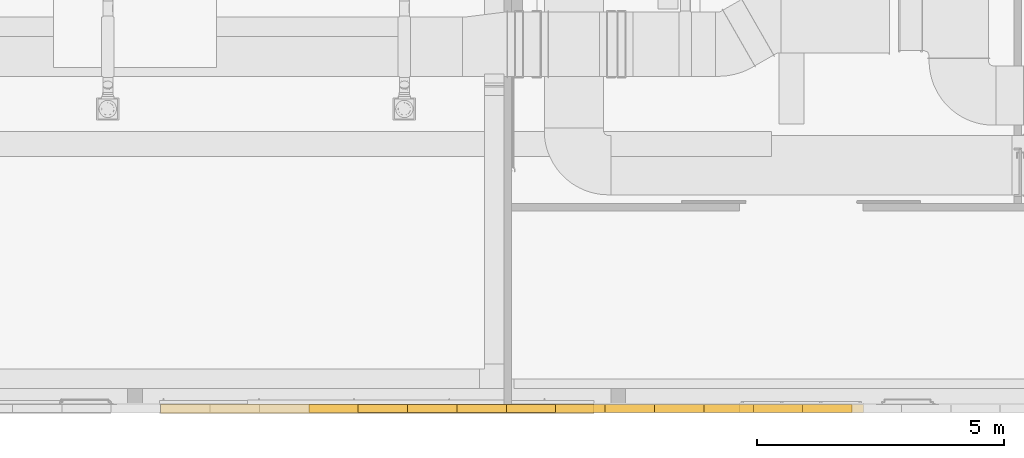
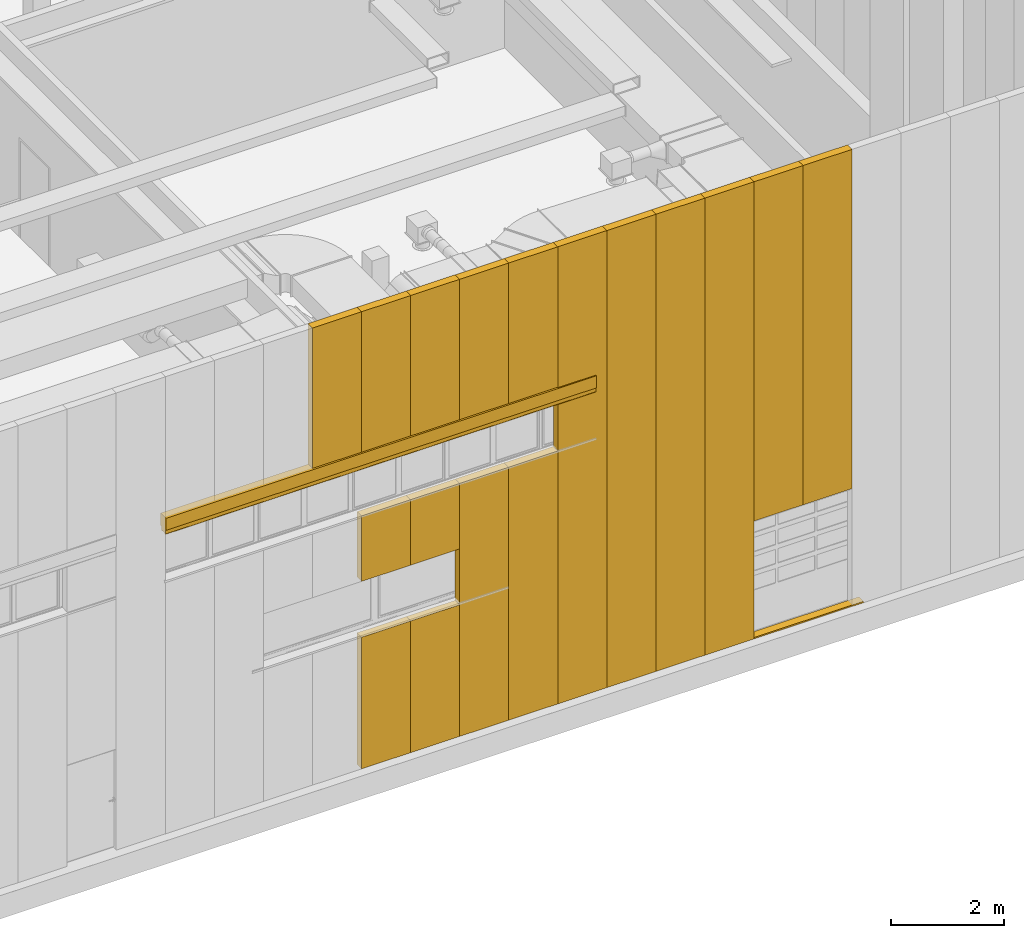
# One storey, part 225 of 302: 18 curtain walls, 1 window, 1 opening, 1 element without a shape of its own.
"""IFC2X3 building model written with IfcOpenShell, lengths in metres."""

from ifc_helpers import new_model, entity, si_unit, converted_unit, derived_unit, direction, frame, frame_2d, origin, origin_2d_with_axis, place, context, subcontext, project, spatial, polyline, circle_curve, parameter, trimmed, segment, composite_curve, rectangle, outline, extrude, source, transform, mapped, material, material_list, layer, layer_set, layer_usage, type_object, type_shapes, element, aggregate, save


model = new_model("IFC2X3")

# Units and contexts
model_context = context("Model", 3, precision=1e-05, world=origin(), true_north=direction((6.12303176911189e-17, 1.0)))
body_context = subcontext(model_context, "Body", "Model", "MODEL_VIEW")
ifc_project = project(units=[si_unit("LENGTHUNIT", "METRE"), si_unit("AREAUNIT", "SQUARE_METRE"), si_unit("VOLUMEUNIT", "CUBIC_METRE"), converted_unit("PLANEANGLEUNIT", "DEGREE", entity("IfcRatioMeasure", 0.0174532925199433), si_unit("PLANEANGLEUNIT", "RADIAN"), dimensions=[0, 0, 0, 0, 0, 0, 0]), si_unit("MASSUNIT", "GRAM", prefix="KILO"), derived_unit("MASSDENSITYUNIT", [(si_unit("MASSUNIT", "GRAM", prefix="KILO"), 1), (si_unit("LENGTHUNIT", "METRE"), -3)]), derived_unit("MOMENTOFINERTIAUNIT", [(si_unit("LENGTHUNIT", "METRE"), 4)]), si_unit("TIMEUNIT", "SECOND"), si_unit("FREQUENCYUNIT", "HERTZ"), si_unit("THERMODYNAMICTEMPERATUREUNIT", "DEGREE_CELSIUS"), derived_unit("THERMALTRANSMITTANCEUNIT", [(si_unit("MASSUNIT", "GRAM", prefix="KILO"), 1), (si_unit("THERMODYNAMICTEMPERATUREUNIT", "KELVIN"), -1), (si_unit("TIMEUNIT", "SECOND"), -3)]), derived_unit("VOLUMETRICFLOWRATEUNIT", [(si_unit("LENGTHUNIT", "METRE"), 3), (si_unit("TIMEUNIT", "SECOND"), -1)]), si_unit("ELECTRICCURRENTUNIT", "AMPERE"), si_unit("ELECTRICVOLTAGEUNIT", "VOLT"), si_unit("POWERUNIT", "WATT"), si_unit("FORCEUNIT", "NEWTON", prefix="KILO"), si_unit("ILLUMINANCEUNIT", "LUX"), si_unit("LUMINOUSFLUXUNIT", "LUMEN"), si_unit("LUMINOUSINTENSITYUNIT", "CANDELA"), derived_unit("USERDEFINED", [(si_unit("MASSUNIT", "GRAM", prefix="KILO"), -1), (si_unit("LENGTHUNIT", "METRE"), -2), (si_unit("TIMEUNIT", "SECOND"), 3), (si_unit("LUMINOUSFLUXUNIT", "LUMEN"), 1)]), derived_unit("LINEARVELOCITYUNIT", [(si_unit("LENGTHUNIT", "METRE"), 1), (si_unit("TIMEUNIT", "SECOND"), -1)]), si_unit("PRESSUREUNIT", "PASCAL"), derived_unit("USERDEFINED", [(si_unit("LENGTHUNIT", "METRE"), -2), (si_unit("MASSUNIT", "GRAM", prefix="KILO"), 1), (si_unit("TIMEUNIT", "SECOND"), -2)]), derived_unit("LINEARFORCEUNIT", [(si_unit("MASSUNIT", "GRAM", prefix="KILO"), 1), (si_unit("LENGTHUNIT", "METRE"), 1), (si_unit("TIMEUNIT", "SECOND"), -2), (si_unit("LENGTHUNIT", "METRE"), -1)]), derived_unit("PLANARFORCEUNIT", [(si_unit("MASSUNIT", "GRAM", prefix="KILO"), 1), (si_unit("LENGTHUNIT", "METRE"), 1), (si_unit("TIMEUNIT", "SECOND"), -2), (si_unit("LENGTHUNIT", "METRE"), -2)])], contexts=[model_context])

# Site, building, storey
site_placement = place(None, origin())
site = spatial("IfcSite", under=ifc_project, at=site_placement, Name="Default", CompositionType="ELEMENT")
building_placement = place(site_placement, origin())
building = spatial("IfcBuilding", under=site, at=building_placement, CompositionType="ELEMENT")
storey_placement = place(building_placement, frame((0.0, 0.0, -1.3)))
storey = spatial("IfcBuildingStorey", under=building, at=storey_placement, Name="00_EG", CompositionType="ELEMENT", Elevation=-1.3)

# Curtain walls, opening
curtain_wall_type_1 = type_object("IfcCurtainWallType", Name="Fassade:Sandwichpaneele 16cm", PredefinedType="NOTDEFINED")
curtain_wall_1_placement = place(storey_placement, frame((0.0, 0.0, 1.3)))
curtain_wall_1 = element("IfcCurtainWall", 1, at=curtain_wall_1_placement, inside=storey, type_object=curtain_wall_type_1, Name="Fassade:Sandwichpaneele 16cm", ObjectType="Fassade:Sandwichpaneele 16cm")
ifc_material_1 = material(Name="Prepainted_Steel-ArcelorMittal_Construction_HAIRULTRA-35-CORAL-4309-[RAL_3000]")
ifc_layer_1 = layer(ifc_material_1, 0.015)
ifc_material_2 = material(Name="ArcelorMittal-MineralWool")
ifc_layer_2 = layer(ifc_material_2, 0.13)
ifc_material_3 = material(Name="Prepainted_Steel-ArcelorMittal_Construction_INTÉRIEUR-12-WHITE-912")
ifc_layer_3 = layer(ifc_material_3, 0.015)
ifc_layer_set = layer_set([ifc_layer_1, ifc_layer_2, ifc_layer_3], Name="Fassade:Sandwichpaneele 16cm")
ifc_layer_usage_1 = layer_usage(ifc_layer_set, "AXIS2", "POSITIVE", -0.08)
curtain_wall_type_2 = type_object("IfcCurtainWallType", Name="Basiswand:Sandwichpaneele d = 16cm aussen", PredefinedType="NOTDEFINED", material=ifc_layer_set)
curtain_wall_2_placement = place(storey_placement, frame((-222.840111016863, 14.898088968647, 1.27)))
curtain_wall_2 = element("IfcCurtainWall", 2, at=curtain_wall_2_placement, type_object=curtain_wall_type_2, material=ifc_layer_usage_1, Name="Basiswand:Sandwichpaneele d = 16cm aussen", ObjectType="Basiswand:Sandwichpaneele d = 16cm aussen", context=body_context, shape_type="SweptSolid", body=[
    extrude(rectangle(XDim=1.00000000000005, YDim=0.159999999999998, at=frame_2d((0.500000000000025, 0.0), x_axis=(-1.0, 0.0))), origin(), (0.0, 0.0, 1.0), 2.83599999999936),
])
ifc_layer_usage_2 = layer_usage(ifc_layer_set, "AXIS2", "POSITIVE", -0.08)
curtain_wall_3_placement = place(storey_placement, frame((-221.840111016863, 14.898088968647, 1.27)))
curtain_wall_3 = element("IfcCurtainWall", 3, at=curtain_wall_3_placement, type_object=curtain_wall_type_2, material=ifc_layer_usage_2, Name="Basiswand:Sandwichpaneele d = 16cm aussen", ObjectType="Basiswand:Sandwichpaneele d = 16cm aussen", context=body_context, shape_type="SweptSolid", body=[
    extrude(rectangle(XDim=0.999999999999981, YDim=0.159999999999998, at=frame_2d((0.49999999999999, 0.0), x_axis=(-1.0, 0.0))), origin(), (0.0, 0.0, 1.0), 2.83599999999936),
])
ifc_layer_usage_3 = layer_usage(ifc_layer_set, "AXIS2", "POSITIVE", -0.08)
curtain_wall_4_placement = place(storey_placement, frame((-219.840111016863, 14.898088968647, 1.27)))
curtain_wall_4 = element("IfcCurtainWall", 4, at=curtain_wall_4_placement, type_object=curtain_wall_type_2, material=ifc_layer_usage_3, Name="Basiswand:Sandwichpaneele d = 16cm aussen", ObjectType="Basiswand:Sandwichpaneele d = 16cm aussen", context=body_context, shape_type="SweptSolid", body=[
    extrude(rectangle(XDim=1.00000000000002, YDim=0.159999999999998, at=frame_2d((0.500000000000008, 0.0), x_axis=(-1.0, 0.0))), origin(), (0.0, 0.0, 1.0), 5.44999999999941),
])
ifc_layer_usage_4 = layer_usage(ifc_layer_set, "AXIS2", "POSITIVE", -0.08)
curtain_wall_5_placement = place(storey_placement, frame((-217.840111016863, 14.898088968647, 1.27)))
curtain_wall_5 = element("IfcCurtainWall", 5, at=curtain_wall_5_placement, type_object=curtain_wall_type_2, material=ifc_layer_usage_4, Name="Basiswand:Sandwichpaneele d = 16cm aussen", ObjectType="Basiswand:Sandwichpaneele d = 16cm aussen", context=body_context, shape_type="SweptSolid", body=[
    extrude(rectangle(XDim=0.999999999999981, YDim=0.159999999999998, at=frame_2d((0.49999999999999, 0.0), x_axis=(-1.0, 0.0))), origin(), (0.0, 0.0, 1.0), 9.8509),
])
ifc_layer_usage_5 = layer_usage(ifc_layer_set, "AXIS2", "POSITIVE", -0.08)
curtain_wall_6_placement = place(storey_placement, frame((-216.840111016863, 14.898088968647, 1.27)))
curtain_wall_6 = element("IfcCurtainWall", 6, at=curtain_wall_6_placement, type_object=curtain_wall_type_2, material=ifc_layer_usage_5, Name="Basiswand:Sandwichpaneele d = 16cm aussen", ObjectType="Basiswand:Sandwichpaneele d = 16cm aussen", context=body_context, shape_type="SweptSolid", body=[
    extrude(rectangle(XDim=0.999999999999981, YDim=0.159999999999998, at=frame_2d((0.49999999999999, 0.0), x_axis=(-1.0, 0.0))), origin(), (0.0, 0.0, 1.0), 9.8509),
])
ifc_layer_usage_6 = layer_usage(ifc_layer_set, "AXIS2", "POSITIVE", -0.08)
curtain_wall_7_placement = place(storey_placement, frame((-215.840111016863, 14.898088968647, 1.27)))
curtain_wall_7 = element("IfcCurtainWall", 7, at=curtain_wall_7_placement, type_object=curtain_wall_type_2, material=ifc_layer_usage_6, Name="Basiswand:Sandwichpaneele d = 16cm aussen", ObjectType="Basiswand:Sandwichpaneele d = 16cm aussen", context=body_context, shape_type="SweptSolid", body=[
    extrude(rectangle(XDim=1.00000000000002, YDim=0.159999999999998, at=frame_2d((0.500000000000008, 0.0), x_axis=(-1.0, 0.0))), origin(), (0.0, 0.0, 1.0), 9.8509),
])
ifc_layer_usage_7 = layer_usage(ifc_layer_set, "AXIS2", "POSITIVE", -0.08)
curtain_wall_8_placement = place(storey_placement, frame((-215.130111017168, 14.898088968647, 1.27)))
curtain_wall_8 = element("IfcCurtainWall", 8, at=curtain_wall_8_placement, type_object=curtain_wall_type_2, material=ifc_layer_usage_7, Name="Basiswand:Sandwichpaneele d = 16cm aussen", ObjectType="Basiswand:Sandwichpaneele d = 16cm aussen", context=body_context, shape_type="SweptSolid", body=[
    extrude(rectangle(XDim=2.51999999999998, YDim=0.159999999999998, at=frame_2d((1.25999999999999, 0.0), x_axis=(-1.0, 0.0))), origin(), (0.0, 0.0, 1.0), 0.0299999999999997),
])
opening_placement = place(curtain_wall_8_placement, frame((2.5354, 0.239999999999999, 0.0299999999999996)))
element("IfcOpeningElement", 9, at=opening_placement, cuts=curtain_wall_8, Name="Door-Garage-Embossed_Panel:Sektionaltor 2.50x2.50:1", ObjectType="Opening", context=body_context, shape_type="SweptSolid", body=[
    extrude(rectangle(XDim=2.5254, YDim=2.5508, at=frame_2d((1.2627, 1.2754), x_axis=(1.0, 0.0))), frame((0.0, 0.0, 0.0), z_axis=(0.0, -1.0, 0.0), x_axis=(0.0, 0.0, 1.0)), (0.0, 0.0, 1.0), 0.16),
])
ifc_layer_usage_8 = layer_usage(ifc_layer_set, "AXIS2", "POSITIVE", -0.08)
curtain_wall_9_placement = place(storey_placement, frame((-214.840111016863, 14.898088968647, 3.8099999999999)))
curtain_wall_9 = element("IfcCurtainWall", 10, at=curtain_wall_9_placement, type_object=curtain_wall_type_2, material=ifc_layer_usage_8, Name="Basiswand:Sandwichpaneele d = 16cm aussen", ObjectType="Basiswand:Sandwichpaneele d = 16cm aussen", context=body_context, shape_type="SweptSolid", body=[
    extrude(rectangle(XDim=1.00000000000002, YDim=0.159999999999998, at=frame_2d((0.500000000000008, 0.0), x_axis=(-1.0, 0.0))), origin(), (0.0, 0.0, 1.0), 7.3109000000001),
])
ifc_layer_usage_9 = layer_usage(ifc_layer_set, "AXIS2", "POSITIVE", -0.08)
curtain_wall_10_placement = place(storey_placement, frame((-213.840111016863, 14.898088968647, 3.8099999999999)))
curtain_wall_10 = element("IfcCurtainWall", 11, at=curtain_wall_10_placement, type_object=curtain_wall_type_2, material=ifc_layer_usage_9, Name="Basiswand:Sandwichpaneele d = 16cm aussen", ObjectType="Basiswand:Sandwichpaneele d = 16cm aussen", context=body_context, shape_type="SweptSolid", body=[
    extrude(rectangle(XDim=0.999999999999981, YDim=0.159999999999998, at=frame_2d((0.49999999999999, 0.0), x_axis=(-1.0, 0.0))), origin(), (0.0, 0.0, 1.0), 7.3109000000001),
])
ifc_layer_usage_10 = layer_usage(ifc_layer_set, "AXIS2", "POSITIVE", -0.08)
curtain_wall_11_placement = place(storey_placement, frame((-222.840111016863, 14.898088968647, 5.31000000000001)))
curtain_wall_11 = element("IfcCurtainWall", 12, at=curtain_wall_11_placement, type_object=curtain_wall_type_2, material=ifc_layer_usage_10, Name="Basiswand:Sandwichpaneele d = 16cm aussen", ObjectType="Basiswand:Sandwichpaneele d = 16cm aussen", context=body_context, shape_type="SweptSolid", body=[
    extrude(rectangle(XDim=1.00000000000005, YDim=0.159999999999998, at=frame_2d((0.500000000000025, 0.0), x_axis=(-1.0, 0.0))), origin(), (0.0, 0.0, 1.0), 1.40999999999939),
])
ifc_layer_usage_11 = layer_usage(ifc_layer_set, "AXIS2", "POSITIVE", -0.08)
curtain_wall_12_placement = place(storey_placement, frame((-221.840111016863, 14.898088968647, 5.31000000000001)))
curtain_wall_12 = element("IfcCurtainWall", 13, at=curtain_wall_12_placement, type_object=curtain_wall_type_2, material=ifc_layer_usage_11, Name="Basiswand:Sandwichpaneele d = 16cm aussen", ObjectType="Basiswand:Sandwichpaneele d = 16cm aussen", context=body_context, shape_type="SweptSolid", body=[
    extrude(rectangle(XDim=0.999999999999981, YDim=0.159999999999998, at=frame_2d((0.49999999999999, 0.0), x_axis=(-1.0, 0.0))), origin(), (0.0, 0.0, 1.0), 1.40999999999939),
])
ifc_layer_usage_12 = layer_usage(ifc_layer_set, "AXIS2", "POSITIVE", -0.08)
curtain_wall_13_placement = place(storey_placement, frame((-220.840111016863, 14.898088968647, 1.27)))
curtain_wall_13 = element("IfcCurtainWall", 14, at=curtain_wall_13_placement, type_object=curtain_wall_type_2, material=ifc_layer_usage_12, Name="Basiswand:Sandwichpaneele d = 16cm aussen", ObjectType="Basiswand:Sandwichpaneele d = 16cm aussen", context=body_context, shape_type="SweptSolid", body=[
    extrude(rectangle(XDim=0.999999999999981, YDim=0.159999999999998, at=frame_2d((0.49999999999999, 0.0), x_axis=(-1.0, 0.0))), origin(), (0.0, 0.0, 1.0), 5.44999999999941),
])
ifc_layer_usage_13 = layer_usage(ifc_layer_set, "AXIS2", "POSITIVE", -0.08)
curtain_wall_14_placement = place(storey_placement, frame((-223.840111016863, 14.898088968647, 8.09499999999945)))
curtain_wall_14 = element("IfcCurtainWall", 15, at=curtain_wall_14_placement, type_object=curtain_wall_type_2, material=ifc_layer_usage_13, Name="Basiswand:Sandwichpaneele d = 16cm aussen", ObjectType="Basiswand:Sandwichpaneele d = 16cm aussen", context=body_context, shape_type="SweptSolid", body=[
    extrude(rectangle(XDim=1.00000000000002, YDim=0.159999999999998, at=frame_2d((0.500000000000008, 0.0), x_axis=(-1.0, 0.0))), origin(), (0.0, 0.0, 1.0), 3.02590000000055),
])
ifc_layer_usage_14 = layer_usage(ifc_layer_set, "AXIS2", "POSITIVE", -0.08)
curtain_wall_15_placement = place(storey_placement, frame((-222.840111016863, 14.898088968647, 8.09499999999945)))
curtain_wall_15 = element("IfcCurtainWall", 16, at=curtain_wall_15_placement, type_object=curtain_wall_type_2, material=ifc_layer_usage_14, Name="Basiswand:Sandwichpaneele d = 16cm aussen", ObjectType="Basiswand:Sandwichpaneele d = 16cm aussen", context=body_context, shape_type="SweptSolid", body=[
    extrude(rectangle(XDim=1.00000000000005, YDim=0.159999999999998, at=frame_2d((0.500000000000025, 0.0), x_axis=(-1.0, 0.0))), origin(), (0.0, 0.0, 1.0), 3.02590000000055),
])
ifc_layer_usage_15 = layer_usage(ifc_layer_set, "AXIS2", "POSITIVE", -0.08)
curtain_wall_16_placement = place(storey_placement, frame((-221.840111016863, 14.898088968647, 8.09499999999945)))
curtain_wall_16 = element("IfcCurtainWall", 17, at=curtain_wall_16_placement, type_object=curtain_wall_type_2, material=ifc_layer_usage_15, Name="Basiswand:Sandwichpaneele d = 16cm aussen", ObjectType="Basiswand:Sandwichpaneele d = 16cm aussen", context=body_context, shape_type="SweptSolid", body=[
    extrude(rectangle(XDim=0.999999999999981, YDim=0.159999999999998, at=frame_2d((0.49999999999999, 0.0), x_axis=(-1.0, 0.0))), origin(), (0.0, 0.0, 1.0), 3.02590000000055),
])
ifc_layer_usage_16 = layer_usage(ifc_layer_set, "AXIS2", "POSITIVE", -0.08)
curtain_wall_17_placement = place(storey_placement, frame((-220.840111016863, 14.898088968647, 8.09499999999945)))
curtain_wall_17 = element("IfcCurtainWall", 18, at=curtain_wall_17_placement, type_object=curtain_wall_type_2, material=ifc_layer_usage_16, Name="Basiswand:Sandwichpaneele d = 16cm aussen", ObjectType="Basiswand:Sandwichpaneele d = 16cm aussen", context=body_context, shape_type="SweptSolid", body=[
    extrude(rectangle(XDim=0.999999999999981, YDim=0.159999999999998, at=frame_2d((0.49999999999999, 0.0), x_axis=(-1.0, 0.0))), origin(), (0.0, 0.0, 1.0), 3.02590000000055),
])
ifc_layer_usage_17 = layer_usage(ifc_layer_set, "AXIS2", "POSITIVE", -0.08)
curtain_wall_18_placement = place(storey_placement, frame((-219.840111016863, 14.898088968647, 8.09499999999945)))
curtain_wall_18 = element("IfcCurtainWall", 19, at=curtain_wall_18_placement, type_object=curtain_wall_type_2, material=ifc_layer_usage_17, Name="Basiswand:Sandwichpaneele d = 16cm aussen", ObjectType="Basiswand:Sandwichpaneele d = 16cm aussen", context=body_context, shape_type="SweptSolid", body=[
    extrude(rectangle(XDim=1.00000000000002, YDim=0.159999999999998, at=frame_2d((0.500000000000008, 0.0), x_axis=(-1.0, 0.0))), origin(), (0.0, 0.0, 1.0), 3.02590000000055),
])
ifc_layer_usage_18 = layer_usage(ifc_layer_set, "AXIS2", "POSITIVE", -0.08)
curtain_wall_19_placement = place(storey_placement, frame((-218.840111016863, 14.898088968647, 1.27)))
curtain_wall_19 = element("IfcCurtainWall", 20, at=curtain_wall_19_placement, type_object=curtain_wall_type_2, material=ifc_layer_usage_18, Name="Basiswand:Sandwichpaneele d = 16cm aussen", ObjectType="Basiswand:Sandwichpaneele d = 16cm aussen", context=body_context, shape_type="SweptSolid", body=[
    extrude(rectangle(XDim=1.00000000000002, YDim=0.159999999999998, at=frame_2d((0.500000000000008, 0.0), x_axis=(-1.0, 0.0))), origin(), (0.0, 0.0, 1.0), 9.8509),
])
aggregate(curtain_wall_1, [curtain_wall_2, curtain_wall_3, curtain_wall_4, curtain_wall_5, curtain_wall_6, curtain_wall_7, curtain_wall_8, curtain_wall_9, curtain_wall_10, curtain_wall_11, curtain_wall_12, curtain_wall_13, curtain_wall_14, curtain_wall_15, curtain_wall_16, curtain_wall_17, curtain_wall_18, curtain_wall_19])

# Window
ifc_material_4 = material(Name="Metall - Edelstahl satiniert")
ifc_material_5 = material(Name="Metall - Raffstore vertikale Stellung")
ifc_material_6 = material(Name="<Unnamed>")
ifc_material_list_1 = material_list([ifc_material_4, ifc_material_5, ifc_material_6])
ifc_material_list_2 = material_list([ifc_material_4, ifc_material_4, ifc_material_5, ifc_material_6, ifc_material_5, ifc_material_5, ifc_material_4])
window_style = type_object("IfcWindowStyle", Name="Blende Raffstore:Raffstore geschlossen, Stellung senkrecht", ConstructionType="NOTDEFINED", OperationType="NOTDEFINED", ParameterTakesPrecedence=False, Sizeable=False, material=ifc_material_list_2)
shared_shape = source(origin(), body_context, "Body", "SweptSolid", [
    extrude(rectangle(XDim=0.00500000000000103, YDim=0.189999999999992, at=origin_2d_with_axis()), frame((8.7775, 0.0949999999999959, 0.0), z_axis=(0.0, 0.0, 1.0), x_axis=(-1.0, 0.0, 0.0)), (0.0, 0.0, 1.0), 0.259999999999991),
    extrude(rectangle(XDim=0.00500000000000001, YDim=0.190000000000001, at=origin_2d_with_axis()), frame((0.00250000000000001, 0.0950000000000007, 0.0), z_axis=(0.0, 0.0, 1.0), x_axis=(-1.0, 0.0, 0.0)), (0.0, 0.0, 1.0), 0.260000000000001),
    extrude(outline(composite_curve([segment(polyline([(-0.122576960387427, -0.0750000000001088), (0.122576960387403, -0.0750000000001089)]), True, "CONTINUOUS"), segment(trimmed(circle_curve(frame_2d((0.424460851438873, 0.0), x_axis=(0.0, 1.0)), 0.311060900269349), [parameter(76.0479171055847)], [parameter(103.952082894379)], True, "PARAMETER"), False, "CONTINUOUS"), segment(polyline([(0.122576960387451, 0.0750000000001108), (-0.122576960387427, 0.0750000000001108)]), True, "CONTINUOUS"), segment(polyline([(-0.122576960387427, 0.0750000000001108), (-0.122576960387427, -0.0750000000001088)]), True, "CONTINUOUS")], self_intersect=False)), frame((0.005, 0.0950000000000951, 0.0324230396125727), z_axis=(1.0, 0.0, 0.0), x_axis=(0.0, 0.0, -1.0)), (0.0, 0.0, 1.0), 8.77),
    extrude(rectangle(XDim=8.77, YDim=0.0799999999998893, at=frame_2d((0.0, 1.73472347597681e-17), x_axis=(1.0, 0.0))), frame((4.39, 0.0950000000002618, 0.175), z_axis=(0.0, 0.0, 1.0), x_axis=(-1.0, 0.0, 0.0)), (0.0, 0.0, 1.0), 0.0799999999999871),
    extrude(outline(composite_curve([segment(trimmed(circle_curve(frame_2d((-0.28429694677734, 0.098190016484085), x_axis=(0.326455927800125, 0.945212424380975)), 0.309068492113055), [parameter(255.956135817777)], [parameter(284.043864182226)], True, "PARAMETER"), False, "CONTINUOUS"), segment(polyline([(-0.0253776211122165, -0.070582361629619), (-0.023803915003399, -0.0718166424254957)]), True, "CONTINUOUS"), segment(trimmed(circle_curve(frame_2d((-0.28429694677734, 0.098190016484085), x_axis=(0.326455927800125, 0.945212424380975)), 0.311060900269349), [parameter(255.923964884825)], [parameter(284.076035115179)], True, "PARAMETER"), True, "CONTINUOUS"), segment(polyline([(0.025590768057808, 0.0711995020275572), (0.0235907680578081, 0.0711995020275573)]), True, "CONTINUOUS")], self_intersect=False)), frame((0.005, 0.0950000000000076, -0.0990547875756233), z_axis=(-1.0, 0.0, 0.0), x_axis=(0.0, 0.326455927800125, 0.945212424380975)), (0.0, 0.0, -1.0), 8.76999999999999),
    extrude(outline(composite_curve([segment(trimmed(circle_curve(frame_2d((-0.284296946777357, 0.0981900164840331), x_axis=(0.326455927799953, 0.945212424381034)), 0.309068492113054), [parameter(255.956135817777)], [parameter(284.043864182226)], True, "PARAMETER"), False, "CONTINUOUS"), segment(polyline([(-0.0253776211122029, -0.0705823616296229), (-0.0238039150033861, -0.0718166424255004)]), True, "CONTINUOUS"), segment(trimmed(circle_curve(frame_2d((-0.284296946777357, 0.0981900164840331), x_axis=(0.326455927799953, 0.945212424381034)), 0.311060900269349), [parameter(255.923964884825)], [parameter(284.076035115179)], True, "PARAMETER"), True, "CONTINUOUS"), segment(polyline([(0.0255907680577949, 0.0711995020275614), (0.023590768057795, 0.0711995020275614)]), True, "CONTINUOUS")], self_intersect=False)), frame((0.005, 0.0950000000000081, -0.0912620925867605), z_axis=(-1.0, 0.0, 0.0), x_axis=(0.0, 0.326455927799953, 0.945212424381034)), (0.0, 0.0, -1.0), 8.76999999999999),
    extrude(outline(polyline([(-0.167154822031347, -0.095000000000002), (0.0928451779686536, -0.095000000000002), (0.077845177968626, -0.0799999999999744), (0.077845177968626, -0.0870710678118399), (0.0807741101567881, -0.090000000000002), (-0.162154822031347, -0.0900000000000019), (-0.162154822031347, 0.0899999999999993), (0.0807741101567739, 0.0899999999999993), (0.0778451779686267, 0.0870710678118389), (0.0778451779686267, 0.0799999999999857), (0.0928451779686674, 0.0949999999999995), (-0.167154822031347, 0.0949999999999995), (-0.167154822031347, -0.095000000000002)])), frame((0.005, 0.095000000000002, 0.0928451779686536), z_axis=(1.0, 0.0, 0.0), x_axis=(0.0, 0.0, -1.0)), (0.0, 0.0, 1.0), 8.77),
])
type_shapes(window_style, [shared_shape])
window_placement = place(storey_placement, frame((-218.061361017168, 14.983088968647, 7.82500000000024), z_axis=(0.0, 0.0, 1.0), x_axis=(-1.0, 0.0, 0.0)))
element("IfcWindow", 21, at=window_placement, inside=storey, type_object=window_style, material=ifc_material_list_1, Name="Blende Raffstore:Raffstore geschlossen, Stellung senkrecht", ObjectType="Blende Raffstore:Raffstore geschlossen, Stellung senkrecht", OverallHeight=0.360000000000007, OverallWidth=8.78, context=body_context, shape_type="MappedRepresentation", body=[
    mapped(shared_shape, transform((0.0, 0.0, 0.0), scale=1.0)),
])

save(model, "model.ifc")
